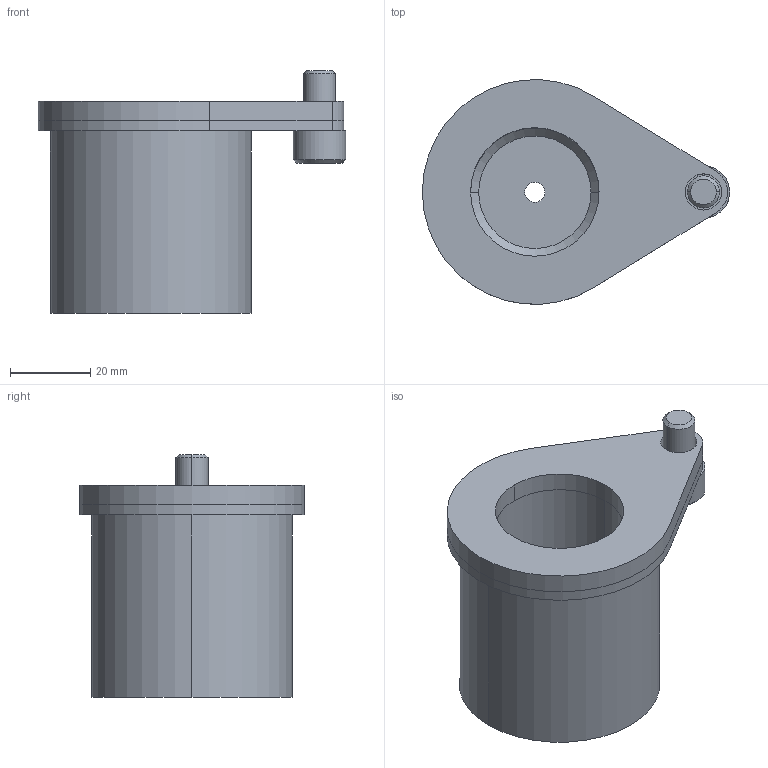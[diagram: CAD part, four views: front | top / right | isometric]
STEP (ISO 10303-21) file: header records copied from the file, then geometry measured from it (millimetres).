
FILE_DESCRIPTION(/* description */ (''),/* implementation_level */ '2;1');
FILE_NAME(/* name */ '3d_pqsp32-48_02948_r00.stp',/* time_stamp */ '2011-01-10T14:11:42+09:00',/* author */ ('MISUMI'),/* organization */ (''),/* preprocessor_version */ 'ST-DEVELOPER v11',/* originating_system */ 'UGS - NX 5.0',/* authorisation */ '');
FILE_SCHEMA (('CONFIG_CONTROL_DESIGN'));
Length unit declared in the file: millimetre
Products named in the file (1): 3d_pqsp32-48_02948_r00
Bounding box: 76.5 x 55.89 x 60.4 mm (x, y, z)
Volume: 75043.6 mm3; surface area: 25077.7 mm2
Topology: 4 solids, 4 shells, 51 faces, 120 edges, 80 vertices
Faces by surface type: plane 21, cylinder 20, cone 10
Entity records: 1594 total; most frequent: DIRECTION 284, CARTESIAN_POINT 252, ORIENTED_EDGE 240, EDGE_CURVE 120, AXIS2_PLACEMENT_3D 112, VERTEX_POINT 80, EDGE_LOOP 64, LINE 60
